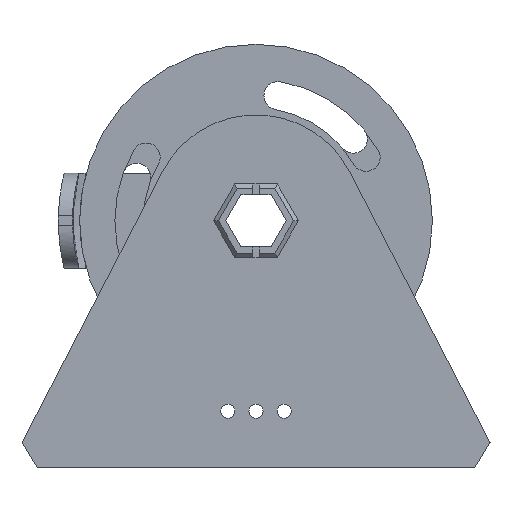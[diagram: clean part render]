
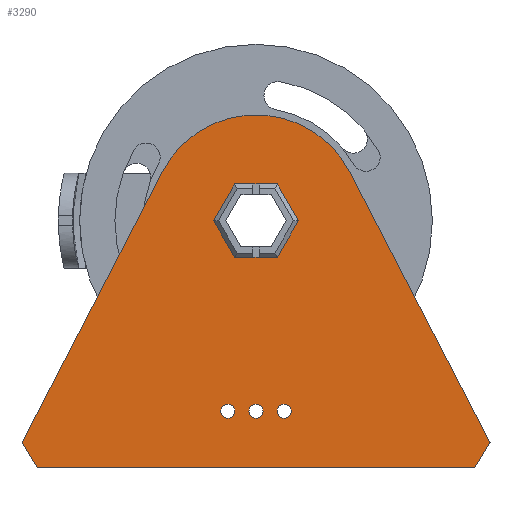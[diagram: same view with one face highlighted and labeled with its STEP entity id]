
A CAD part, front view. The second image highlights one B-rep face of the part: STEP entity #3290.
In plain terms, the highlighted planar face has unit normal (0, -1, 0) as drawn and (0, 0, 1) by its records, which use the part's own axes.
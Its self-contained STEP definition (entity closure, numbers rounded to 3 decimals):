
#167=FACE_BOUND('',#422,.T.);
#168=FACE_BOUND('',#423,.T.);
#169=FACE_BOUND('',#424,.T.);
#170=FACE_BOUND('',#425,.T.);
#235=FACE_OUTER_BOUND('',#421,.T.);
#421=EDGE_LOOP('',(#2388,#2389,#2390,#2391,#2392,#2393));
#422=EDGE_LOOP('',(#2394,#2395,#2396,#2397,#2398,#2399));
#423=EDGE_LOOP('',(#2400));
#424=EDGE_LOOP('',(#2401));
#425=EDGE_LOOP('',(#2402));
#597=CIRCLE('',#3542,15.);
#598=CIRCLE('',#3543,1.);
#599=CIRCLE('',#3544,1.);
#600=CIRCLE('',#3545,1.);
#804=LINE('',#5009,#1147);
#805=LINE('',#5011,#1148);
#806=LINE('',#5015,#1149);
#807=LINE('',#5017,#1150);
#808=LINE('',#5018,#1151);
#809=LINE('',#5021,#1152);
#810=LINE('',#5023,#1153);
#811=LINE('',#5025,#1154);
#812=LINE('',#5027,#1155);
#813=LINE('',#5029,#1156);
#814=LINE('',#5030,#1157);
#1147=VECTOR('',#4010,10.);
#1148=VECTOR('',#4011,10.);
#1149=VECTOR('',#4014,10.);
#1150=VECTOR('',#4015,10.);
#1151=VECTOR('',#4016,10.);
#1152=VECTOR('',#4017,10.);
#1153=VECTOR('',#4018,10.);
#1154=VECTOR('',#4019,10.);
#1155=VECTOR('',#4020,10.);
#1156=VECTOR('',#4021,10.);
#1157=VECTOR('',#4022,10.);
#1461=VERTEX_POINT('',#5007);
#1462=VERTEX_POINT('',#5008);
#1463=VERTEX_POINT('',#5010);
#1464=VERTEX_POINT('',#5012);
#1465=VERTEX_POINT('',#5014);
#1466=VERTEX_POINT('',#5016);
#1467=VERTEX_POINT('',#5019);
#1468=VERTEX_POINT('',#5020);
#1469=VERTEX_POINT('',#5022);
#1470=VERTEX_POINT('',#5024);
#1471=VERTEX_POINT('',#5026);
#1472=VERTEX_POINT('',#5028);
#1473=VERTEX_POINT('',#5031);
#1474=VERTEX_POINT('',#5033);
#1475=VERTEX_POINT('',#5035);
#1807=EDGE_CURVE('',#1461,#1462,#804,.T.);
#1808=EDGE_CURVE('',#1462,#1463,#805,.T.);
#1809=EDGE_CURVE('',#1463,#1464,#597,.T.);
#1810=EDGE_CURVE('',#1464,#1465,#806,.T.);
#1811=EDGE_CURVE('',#1465,#1466,#807,.T.);
#1812=EDGE_CURVE('',#1466,#1461,#808,.T.);
#1813=EDGE_CURVE('',#1467,#1468,#809,.T.);
#1814=EDGE_CURVE('',#1468,#1469,#810,.T.);
#1815=EDGE_CURVE('',#1469,#1470,#811,.T.);
#1816=EDGE_CURVE('',#1470,#1471,#812,.T.);
#1817=EDGE_CURVE('',#1471,#1472,#813,.T.);
#1818=EDGE_CURVE('',#1472,#1467,#814,.T.);
#1819=EDGE_CURVE('',#1473,#1473,#598,.T.);
#1820=EDGE_CURVE('',#1474,#1474,#599,.T.);
#1821=EDGE_CURVE('',#1475,#1475,#600,.T.);
#2388=ORIENTED_EDGE('',*,*,#1807,.T.);
#2389=ORIENTED_EDGE('',*,*,#1808,.T.);
#2390=ORIENTED_EDGE('',*,*,#1809,.T.);
#2391=ORIENTED_EDGE('',*,*,#1810,.T.);
#2392=ORIENTED_EDGE('',*,*,#1811,.T.);
#2393=ORIENTED_EDGE('',*,*,#1812,.T.);
#2394=ORIENTED_EDGE('',*,*,#1813,.T.);
#2395=ORIENTED_EDGE('',*,*,#1814,.T.);
#2396=ORIENTED_EDGE('',*,*,#1815,.T.);
#2397=ORIENTED_EDGE('',*,*,#1816,.T.);
#2398=ORIENTED_EDGE('',*,*,#1817,.T.);
#2399=ORIENTED_EDGE('',*,*,#1818,.T.);
#2400=ORIENTED_EDGE('',*,*,#1819,.T.);
#2401=ORIENTED_EDGE('',*,*,#1820,.T.);
#2402=ORIENTED_EDGE('',*,*,#1821,.T.);
#3165=PLANE('',#3541);
#3290=ADVANCED_FACE('',(#235,#167,#168,#169,#170),#3165,.T.);
#3541=AXIS2_PLACEMENT_3D('',#5006,#4008,#4009);
#3542=AXIS2_PLACEMENT_3D('',#5013,#4012,#4013);
#3543=AXIS2_PLACEMENT_3D('',#5032,#4023,#4024);
#3544=AXIS2_PLACEMENT_3D('',#5034,#4025,#4026);
#3545=AXIS2_PLACEMENT_3D('',#5036,#4027,#4028);
#4008=DIRECTION('center_axis',(0.,0.,1.));
#4009=DIRECTION('ref_axis',(1.,0.,0.));
#4010=DIRECTION('',(0.52,0.854,0.));
#4011=DIRECTION('',(-0.46,0.888,0.));
#4012=DIRECTION('center_axis',(0.,0.,1.));
#4013=DIRECTION('ref_axis',(1.,0.,0.));
#4014=DIRECTION('',(-0.46,-0.888,0.));
#4015=DIRECTION('',(0.52,-0.854,0.));
#4016=DIRECTION('',(1.,0.,0.));
#4017=DIRECTION('',(-0.5,0.866,0.));
#4018=DIRECTION('',(0.5,0.866,0.));
#4019=DIRECTION('',(1.,0.,0.));
#4020=DIRECTION('',(0.5,-0.866,0.));
#4021=DIRECTION('',(-0.5,-0.866,0.));
#4022=DIRECTION('',(-1.,0.,0.));
#4023=DIRECTION('center_axis',(0.,0.,-1.));
#4024=DIRECTION('ref_axis',(1.,0.,0.));
#4025=DIRECTION('center_axis',(0.,0.,-1.));
#4026=DIRECTION('ref_axis',(1.,0.,0.));
#4027=DIRECTION('center_axis',(0.,0.,-1.));
#4028=DIRECTION('ref_axis',(1.,0.,0.));
#5006=CARTESIAN_POINT('Origin',(0.,0.,2.));
#5007=CARTESIAN_POINT('',(31.,-35.,2.));
#5008=CARTESIAN_POINT('',(33.162,-31.447,2.));
#5009=CARTESIAN_POINT('',(35.123,-28.224,2.));
#5010=CARTESIAN_POINT('',(13.322,6.894,2.));
#5011=CARTESIAN_POINT('',(13.322,6.894,2.));
#5012=CARTESIAN_POINT('',(-13.322,6.894,2.));
#5013=CARTESIAN_POINT('Origin',(0.,0.,2.));
#5014=CARTESIAN_POINT('',(-33.162,-31.447,2.));
#5015=CARTESIAN_POINT('',(-35.,-35.,2.));
#5016=CARTESIAN_POINT('',(-31.,-35.,2.));
#5017=CARTESIAN_POINT('',(-35.123,-28.224,2.));
#5018=CARTESIAN_POINT('',(35.,-35.,2.));
#5019=CARTESIAN_POINT('',(-3.009,-5.212,2.));
#5020=CARTESIAN_POINT('',(-6.018,0.,2.));
#5021=CARTESIAN_POINT('',(-3.761,-3.909,2.));
#5022=CARTESIAN_POINT('',(-3.009,5.212,2.));
#5023=CARTESIAN_POINT('',(-5.266,1.303,2.));
#5024=CARTESIAN_POINT('',(3.009,5.212,2.));
#5025=CARTESIAN_POINT('',(-1.504,5.212,2.));
#5026=CARTESIAN_POINT('',(6.018,0.,2.));
#5027=CARTESIAN_POINT('',(3.761,3.909,2.));
#5028=CARTESIAN_POINT('',(3.009,-5.212,2.));
#5029=CARTESIAN_POINT('',(5.266,-1.303,2.));
#5030=CARTESIAN_POINT('',(1.504,-5.212,2.));
#5031=CARTESIAN_POINT('',(-1.,-27.,2.));
#5032=CARTESIAN_POINT('Origin',(0.,-27.,
2.));
#5033=CARTESIAN_POINT('',(-5.,-27.,2.));
#5034=CARTESIAN_POINT('Origin',(-4.,-27.,2.));
#5035=CARTESIAN_POINT('',(3.,-27.,2.));
#5036=CARTESIAN_POINT('Origin',(4.,-27.,2.));
